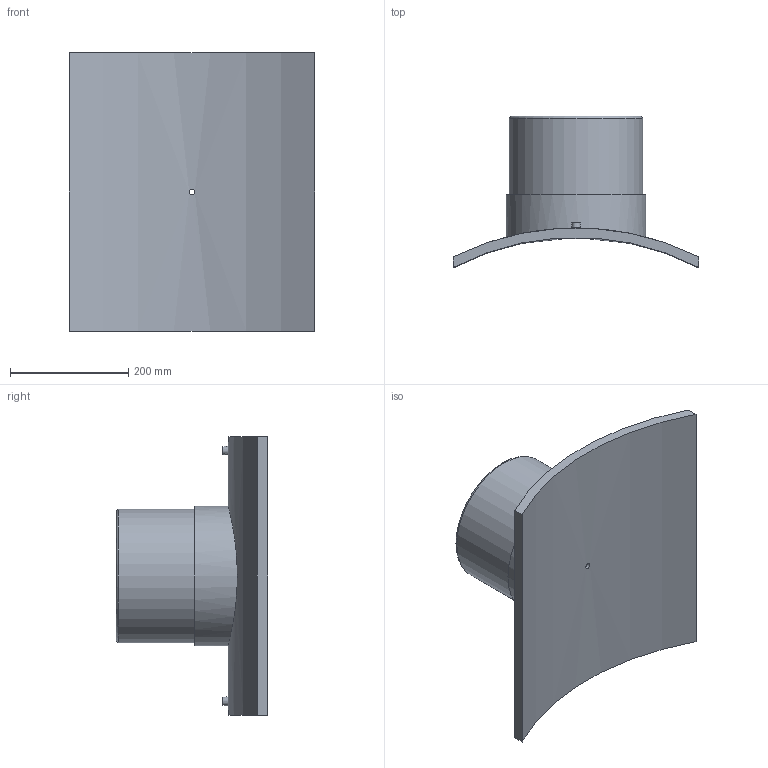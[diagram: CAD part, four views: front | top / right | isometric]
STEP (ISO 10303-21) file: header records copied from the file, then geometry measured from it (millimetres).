
FILE_DESCRIPTION(/* description */ ('PLASSON BRANCH SADDLE 900x225'),/* implementation_level */ '2;1');
FILE_NAME(/* name */ 'C:\Dropbox\99-16-3568-Processing\ElectroFusion Fittings\495803\495803900225T.ipt.stp',/* time_stamp */ '2021-02-25T09:46:06+02:00',/* author */ ('KIM'),/* organization */ (''),/* preprocessor_version */ 'ST-DEVELOPER v17.2',/* originating_system */ 'Autodesk Inventor 2019',/* authorisation */ '');
FILE_SCHEMA (('AUTOMOTIVE_DESIGN { 1 0 10303 214 3 1 1 }'));
Length unit declared in the file: millimetre
Products named in the file (1): 495803900225T
Bounding box: 415 x 255.7 x 470 mm (x, y, z)
Volume: 6292026.4 mm3; surface area: 693323.6 mm2
Topology: 1 solids, 1 shells, 29 faces, 60 edges, 43 vertices
Faces by surface type: plane 13, cylinder 12, torus 2, cone 2
Full cylindrical faces by diameter (mm): 4 x2, 9.6 x1, 10 x2, 16 x1, 180 x1, 225 x1, 236.25 x1
Entity records: 1086 total; most frequent: CARTESIAN_POINT 400, DIRECTION 139, ORIENTED_EDGE 120, EDGE_CURVE 60, AXIS2_PLACEMENT_3D 60, VERTEX_POINT 43, EDGE_LOOP 41, CIRCLE 30
